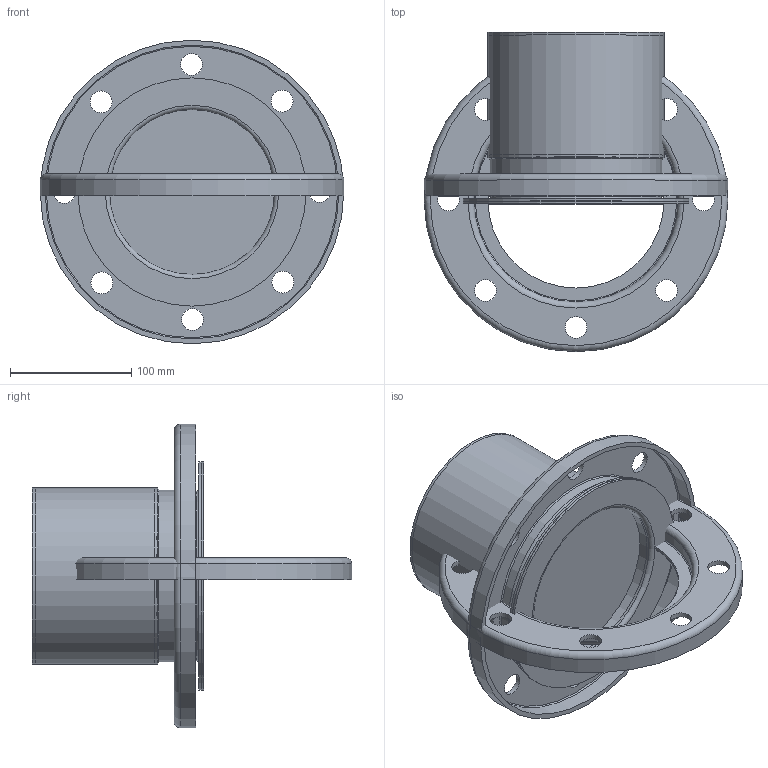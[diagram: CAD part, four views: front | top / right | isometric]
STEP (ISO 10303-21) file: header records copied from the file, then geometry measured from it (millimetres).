
FILE_DESCRIPTION( ( 'Unknown' ), '1' );
FILE_NAME( '//Server/ofimatica/alfredo/Alfredo2/ISOTUBI/PZAS3D/FICHATECNICA/NUMEPRESS/generico 3D/F28DN139,7.stp', 'Unknown', ( 'Unknown' ), ( 'Unknown' ), 'PSStep 14.0', 'Unknown', ' ' );
FILE_SCHEMA( ( 'AUTOMOTIVE_DESIGN { 1 0 10303 214 1 1 1 1 }' ) );
Length unit declared in the file: millimetre
Products named in the file (3): Assem1; BRIDAloca139,7gen; balona139,7BRIDLOCAgen
Bounding box: 250 x 263 x 250 mm (x, y, z)
Volume: 1525745.5 mm3; surface area: 536413.3 mm2
Topology: 4 solids, 4 shells, 82 faces, 178 edges, 120 vertices
Faces by surface type: cylinder 38, plane 24, torus 18, cone 2
Full cylindrical faces by diameter (mm): 18 x16, 135.7 x2, 139.7 x4, 141 x2, 145 x4, 168 x2, 176 x2, 188 x2, 242 x2, 250 x2
Entity records: 1300 total; most frequent: DIRECTION 184, CARTESIAN_POINT 140, EDGE_LOOP 96, ORIENTED_EDGE 96, AXIS2_PLACEMENT_3D 92, FACE_OUTER_BOUND 69, EDGE_CURVE 48, VERTEX_POINT 48
